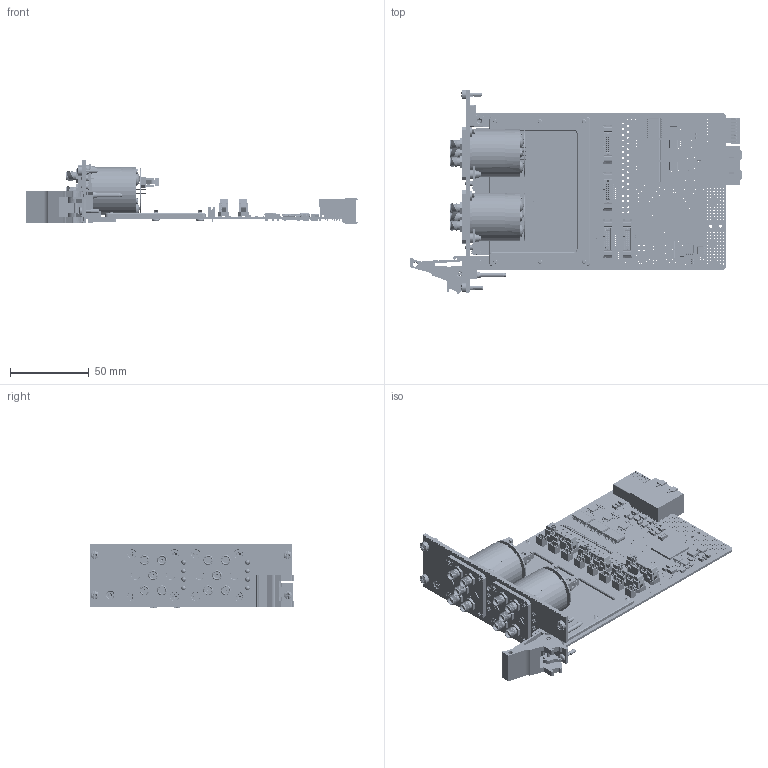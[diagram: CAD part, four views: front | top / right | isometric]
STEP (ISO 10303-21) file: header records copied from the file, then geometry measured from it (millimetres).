
FILE_DESCRIPTION (( 'STEP AP214' ), '1' );
FILE_NAME ('42-784B-122 PXIe Microwave Multiplexer Dual SP4T 18 GHz 50 Ohm SMA Failsafe.step', '2024-08-06T12:04:41', ( '' ), ( '' ), 'SwSTEP 2.0', 'SolidWorks 2023', '' );
FILE_SCHEMA (( 'AUTOMOTIVE_DESIGN' ));
Length unit declared in the file: millimetre
Products named in the file (90): C-RL-336-L1 SP4T uWave Relay; C-CN-1132-PIN; C-BP-018 PXI 3U x 2 Slot Blank Panel; C-RS-490 Res 0603 82K SMT; C-CN-897 2x8 way Connector 1.27 pitch; A-PC-990 Mw Led PCB Assy; C-CN-887 2 X8 WAY HEADER MALE STRAIGHT_AIRFLOW; A-PC-894 R591 PCB Adaptor; C-FX-539 M3 Self Clinching Nut; C-IC-458 LDO VOLTAGE REGULATOR 1.2V SOT; C-RS-756 RES 0R 0603  200PPM; C-RL-336 SP4T uWave Relay; C-FP-841 PXI 2 Slot Dual SP4T uWave FP; C-PC-1360 PXI 4x-78y uWave Relay Driver; C-FX-025 Pcb Mounting Bracket; C-FX-165 Handle Finger; C-RS-147 Res 100R 0603 1-16W 1% 100PPM; C-CP-034; A-FP-841-L1 PXI 2 Slot Dual SP4T uWave Full Assembly; C-IC-611 8-Bit Shift Register 16-Pin; C-RS-152 Res 10K 0603 1-16W 1% 300PPM; C-FX-836 Spacer M3 x 2mm Nylon_M3 clr x 4mm C-FX-027; C-CN-107-BODY; C-FX-813 M3x12mm Countersunk Pozi_M 3x06-965_A2; C-MS-1069 Shielded Power Inductor; C-SC-141 LED DIP 3MM (1); C-CN-1116-Body 40 WAY PXIE XJ4 TYPE B8 RA F; A-FP-841 PXI 2 Slot Dual SP4T uWave FP Assy; C-FX-1145 PXI uWave PCB Support; A-PC-1360-A-PXIe 4x-78y uWave Relay Driver; C-IC-330 SOURCE DRIVER; C-BK-026 Bush Front Panel Mounting; C-CN-1116 40 WAY PXIE XJ4 TYPE B8 RA F; C-FX-374 M3x8mm Countersink Pozi + Vibra Strip; C-CP-134 CAP 1uF CERAMIC SMT 0805; C-RS-1247 RES 510K 0603 0.1W 1% 100PPM; C-FX-165 Handle Body; C-CN-1422 PXIE XJ3 RA F TH SD ASSY; 42-784B-122 PXIe Microwave Multiplexer Dual SP4T 18 GHz 50 Ohm SMA Failsafe; C-FX-1111 SANDBLASTED uWave Driver Seated Mounting Panel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
Assembly tree (279 placements, depth 6):
  42-784B-122 PXIe Microwave Multiplexer Dual SP4T 18 GHz 50 Ohm SMA Failsafe
    A-PC-1360-A-PXIe 4x-78y uWave Relay Driver
      A-PC-1360-A-PXIe-# 4x-78y uWave Relay Driver
        C-PC-1360 PXI 4x-78y uWave Relay Driver
        C-RS-756 RES 0R 0603  200PPM
        C-IC-425 SOICN 8PIN SD  x2
        C-RS-363 RES 2K7 SMT 0603
        C-RS-146 Res 4K7 0603 1-16W 1% 100PPM
        C-CP-034  x15
        C-CP-239  Power Line Filter  x2
        C-IC-489 F-RAM Semiconductor Serial-I2C FRAM Memory 512kbit 2-3.6 V 8-Pin SOIC
        C-RS-152 Res 10K 0603 1-16W 1% 300PPM  x2
        C-RS-190 Res 0R0 SIZE 0603 SMT
        C-RS-256 Res 100K (0603) 1.16W 1% 100pp SMT
        C-RS-147 Res 100R 0603 1-16W 1% 100PPM
        C-CP-124 CAP 10nF CERAMIC SMT 0402  x32
        C-CP-099 CAP 0.1uF 16V 0402 SMT  x16
        C-CN-1116 40 WAY PXIE XJ4 TYPE B8 RA F
          C-CN-1116-Body 40 WAY PXIE XJ4 TYPE B8 RA F
          C-CN-1116-Shield 40 WAY PXIE XJ4 TYPE B8 RA F
        C-CN-1422 PXIE XJ3 RA F TH SD ASSY
          C-CN-1422-BODY PXIE XJ3 RA F TH SD
        C-IC-330 SOURCE DRIVER  x3
        C-IC-611 8-Bit Shift Register 16-Pin  x3
        C-RS-079 Fixed Network Resistor, 10 kohm, 4 Elements, Isolated, 1206 IMP or 3216 Metric, 8 Pins  x6
        C-MS-717 Ferrite Chip Bead  x24
        C-CN-861 1 x 2 Way Header   x8
        C-CN-887 2 X8 WAY HEADER MALE STRAIGHT_AIRFLOW  x4
        C-CP-110 CAP 0603 X7R 100nF SMT  x4
        C-MS-1069 Shielded Power Inductor
        C-CP-175 CAP 22uF 1206 25V X5R 10%  x6
        C-CP-131 CAP 3.3nF CERAMIC SMT 0402
        C-IC-497 High Accuracy 3V to 17V Step Down Converter
        C-RS-490 Res 0603 82K SMT
        C-RS-1247 RES 510K 0603 0.1W 1% 100PPM
        C-CP-141 CAP 10UF 1206 35V X5R 10%  x5
        C-IC-369 FPGA 17000 Cells 65nm Technology 1.2V 256-Pin FTBGA
        C-IC-458 LDO VOLTAGE REGULATOR 1.2V SOT  x2
        C-IC-598 64Mbit Flash Memory 8-Pin SOIC
        C-RS-659 RES NW 4K7 4RES 8PINS SMT1206  x4
        C-RS-521 Res 120R (0603) 1-16W 1% 100pp
        C-MS-803 BEAD 120R 0603 2A 0R05 25%  x4
        C-CN-1071
          C-CN-107-BODY
          C-CN-107-PIN  x8
        C-CP-134 CAP 1uF CERAMIC SMT 0805  x4
        C-CP-139 CAP 4.7UF 1206 16V X7R 10%  x4
        C-IC-442 VSSOP 8PIN SD
        C-RS-148 Res 1K 0603 1-16W 1% 100PPM  x2
        C-SC-146 Dual Transistor SOT-14  x2
    A-FP-841-L1 PXI 2 Slot Dual SP4T uWave Full Assembly
      A-FP-841 PXI 2 Slot Dual SP4T uWave FP Assy
        C-FP-841 PXI 2 Slot Dual SP4T uWave FP
          C-BP-018 PXI 3U x 2 Slot Blank Panel
        L-FP-841 PXI 2 Slot Dual SP4T uWave FP Label
          L-FP-841-# PXI 2 Slot Dual SP4T uWave FP Label
        C-FX-539 M3 Self Clinching Nut  x4
      Z-FX-2001 FP Fixing - Bush + Screw  x3
        C-BK-026 Bush Front Panel Mounting
        P-FX-017 M2,5 Collar Posi-Slot Screw
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Bounding box: 210.75 x 129.68 x 40.79 mm (x, y, z)
Volume: 126184 mm3; surface area: 109584.3 mm2
Topology: 525 solids, 560 shells, 23498 faces, 58808 edges, 37499 vertices
Faces by surface type: plane 15095, cylinder 6226, cone 1185, torus 694, bspline 274, sphere 24
Entity records: 461469 total; most frequent: CARTESIAN_POINT 72768, DIRECTION 61617, ORIENTED_EDGE 59108, EDGE_CURVE 29558, AXIS2_PLACEMENT_3D 21296, LINE 19025, VECTOR 19025, VERTEX_POINT 18977
